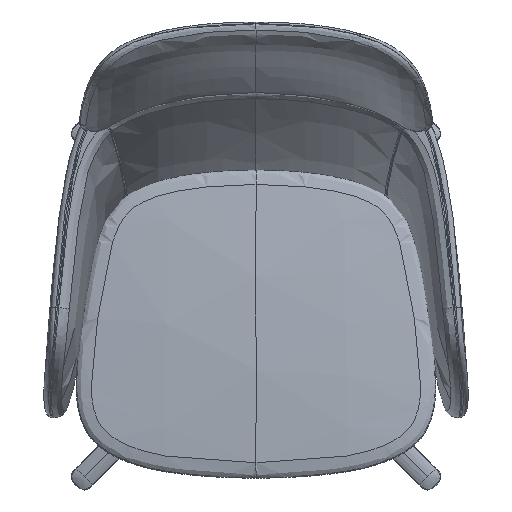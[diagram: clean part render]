
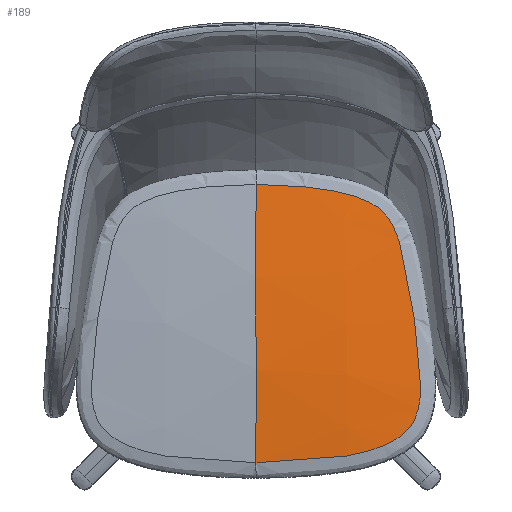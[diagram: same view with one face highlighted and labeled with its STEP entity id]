
A CAD part, top view. The second image highlights one B-rep face of the part: STEP entity #189.
In plain terms, the highlighted free-form (B-spline) face has degree [3, 3] with [9, 5] control points.
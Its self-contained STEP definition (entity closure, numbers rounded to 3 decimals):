
#189=ADVANCED_FACE('',(#459),#3331,.T.);
#459=FACE_OUTER_BOUND('',#729,.T.);
#729=EDGE_LOOP('',(#1390,#1391));
#1390=ORIENTED_EDGE('',*,*,#2254,.T.);
#1391=ORIENTED_EDGE('',*,*,#2253,.T.);
#2253=EDGE_CURVE('',#2935,#2934,#3624,.T.);
#2254=EDGE_CURVE('',#2934,#2935,#3625,.T.);
#2934=VERTEX_POINT('',#18124);
#2935=VERTEX_POINT('',#18125);
#3331=B_SPLINE_SURFACE_WITH_KNOTS('',3,3,((#17196,#17197,#17198,#17199,
#17200),(#17201,#17202,#17203,#17204,#17205),(#17206,#17207,#17208,#17209,
#17210),(#17211,#17212,#17213,#17214,#17215),(#17216,#17217,#17218,#17219,
#17220),(#17221,#17222,#17223,#17224,#17225),(#17226,#17227,#17228,#17229,
#17230),(#17231,#17232,#17233,#17234,#17235),(#17236,#17237,#17238,#17239,
#17240)),.UNSPECIFIED.,.F.,.F.,.F.,(4,1,1,1,1,1,4),(4,1,4),(0.,83.449,
166.899,250.348,333.797,417.247,500.696),
(0.,142.741,285.482),.UNSPECIFIED.);
#3624=B_SPLINE_CURVE_WITH_KNOTS('',3,(#18238,#18239,#18240,#18241,#18242,
#18243,#18244,#18245,#18246),.UNSPECIFIED.,.F.,.F.,(4,1,1,1,1,1,4),(-474.18,
-417.247,-333.797,-250.348,-166.899,-83.449,
-27.123),.UNSPECIFIED.);
#3625=B_SPLINE_CURVE_WITH_KNOTS('',3,(#18247,#18248,#18249,#18250,#18251,
#18252,#18253,#18254,#18255,#18256,#18257,#18258,#18259,#18260,#18261,#18262,
#18263,#18264,#18265,#18266,#18267,#18268,#18269,#18270,#18271,#18272,#18273,
#18274,#18275,#18276,#18277,#18278,#18279,#18280,#18281,#18282,#18283,#18284),
 .UNSPECIFIED.,.F.,.F.,(4,1,1,1,1,1,1,1,1,1,1,1,1,1,1,1,1,1,1,1,1,1,1,1,
1,1,1,1,1,1,1,1,1,1,1,4),(0.,74.102,112.748,154.424,
192.525,214.792,232.095,245.22,256.268,
263.231,270.492,282.04,294.959,312.087,
324.989,345.938,375.178,394.6,433.998,
474.064,495.025,522.099,558.984,574.441,
583.826,599.863,611.407,622.834,635.318,
648.378,662.906,685.56,722.309,760.825,
798.113,834.844),.UNSPECIFIED.);
#17196=CARTESIAN_POINT('',(293.441,-278.96,418.532));
#17197=CARTESIAN_POINT('',(244.578,-279.806,420.82));
#17198=CARTESIAN_POINT('',(146.791,-281.076,424.253));
#17199=CARTESIAN_POINT('',(48.931,-281.499,425.398));
#17200=CARTESIAN_POINT('',(0.,-281.499,425.398));
#17201=CARTESIAN_POINT('',(293.711,-251.33,417.938));
#17202=CARTESIAN_POINT('',(244.804,-252.084,421.13));
#17203=CARTESIAN_POINT('',(146.927,-253.216,425.92));
#17204=CARTESIAN_POINT('',(48.977,-253.593,427.517));
#17205=CARTESIAN_POINT('',(0.,-253.593,427.517));
#17206=CARTESIAN_POINT('',(293.865,-196.081,416.29));
#17207=CARTESIAN_POINT('',(244.933,-196.593,420.786));
#17208=CARTESIAN_POINT('',(147.006,-197.362,427.532));
#17209=CARTESIAN_POINT('',(49.003,-197.618,429.782));
#17210=CARTESIAN_POINT('',(0.,-197.618,429.782));
#17211=CARTESIAN_POINT('',(292.931,-113.227,412.438));
#17212=CARTESIAN_POINT('',(244.156,-113.367,417.778));
#17213=CARTESIAN_POINT('',(146.541,-113.576,425.789));
#17214=CARTESIAN_POINT('',(48.848,-113.646,428.461));
#17215=CARTESIAN_POINT('',(0.,-113.646,428.461));
#17216=CARTESIAN_POINT('',(290.831,-30.47,407.209));
#17217=CARTESIAN_POINT('',(242.408,-30.24,412.688));
#17218=CARTESIAN_POINT('',(145.493,-29.895,420.909));
#17219=CARTESIAN_POINT('',(48.499,-29.779,423.65));
#17220=CARTESIAN_POINT('',(0.,-29.779,423.65));
#17221=CARTESIAN_POINT('',(287.567,52.155,400.605));
#17222=CARTESIAN_POINT('',(239.689,52.736,405.943));
#17223=CARTESIAN_POINT('',(143.864,53.607,413.952));
#17224=CARTESIAN_POINT('',(47.956,53.898,416.622));
#17225=CARTESIAN_POINT('',(0.,53.898,416.622));
#17226=CARTESIAN_POINT('',(283.142,134.589,392.631));
#17227=CARTESIAN_POINT('',(236.003,135.475,397.155));
#17228=CARTESIAN_POINT('',(141.653,136.805,403.943));
#17229=CARTESIAN_POINT('',(47.219,137.248,406.207));
#17230=CARTESIAN_POINT('',(0.,137.248,406.207));
#17231=CARTESIAN_POINT('',(279.422,189.362,386.408));
#17232=CARTESIAN_POINT('',(232.904,190.364,389.672));
#17233=CARTESIAN_POINT('',(139.795,191.867,394.568));
#17234=CARTESIAN_POINT('',(46.6,192.369,396.201));
#17235=CARTESIAN_POINT('',(0.,192.369,396.201));
#17236=CARTESIAN_POINT('',(277.369,216.711,383.07));
#17237=CARTESIAN_POINT('',(231.193,217.713,385.464));
#17238=CARTESIAN_POINT('',(138.769,219.217,389.058));
#17239=CARTESIAN_POINT('',(46.258,219.719,390.256));
#17240=CARTESIAN_POINT('',(0.,219.719,390.256));
#18124=CARTESIAN_POINT('',(0.,-254.266,427.159));
#18125=CARTESIAN_POINT('',(0.,193.587,395.644));
#18238=CARTESIAN_POINT('',(0.,193.587,395.644));
#18239=CARTESIAN_POINT('',(0.,174.843,399.303));
#18240=CARTESIAN_POINT('',(0.,128.42,407.31));
#18241=CARTESIAN_POINT('',(0.,53.898,416.622));
#18242=CARTESIAN_POINT('',(0.,-29.779,423.65));
#18243=CARTESIAN_POINT('',(0.,-113.646,428.461));
#18244=CARTESIAN_POINT('',(0.,-188.52,429.639));
#18245=CARTESIAN_POINT('',(0.,-235.4,428.17));
#18246=CARTESIAN_POINT('',(0.,-254.266,427.159));
#18247=CARTESIAN_POINT('',(0.,-254.266,427.159));
#18248=CARTESIAN_POINT('',(24.702,-254.273,427.157));
#18249=CARTESIAN_POINT('',(62.281,-252.978,426.932));
#18250=CARTESIAN_POINT('',(113.565,-248.479,426.062));
#18251=CARTESIAN_POINT('',(152.657,-242.898,425.052));
#18252=CARTESIAN_POINT('',(185.712,-234.669,423.831));
#18253=CARTESIAN_POINT('',(209.837,-225.227,422.629));
#18254=CARTESIAN_POINT('',(225.332,-216.933,421.674));
#18255=CARTESIAN_POINT('',(236.602,-208.925,420.84));
#18256=CARTESIAN_POINT('',(244.145,-201.78,420.179));
#18257=CARTESIAN_POINT('',(249.409,-195.21,419.641));
#18258=CARTESIAN_POINT('',(253.974,-187.935,419.101));
#18259=CARTESIAN_POINT('',(258.304,-178.271,418.461));
#18260=CARTESIAN_POINT('',(262.075,-164.922,417.674));
#18261=CARTESIAN_POINT('',(264.173,-150.752,416.918));
#18262=CARTESIAN_POINT('',(265.179,-133.804,416.066));
#18263=CARTESIAN_POINT('',(265.,-112.786,415.039));
#18264=CARTESIAN_POINT('',(263.236,-89.666,413.907));
#18265=CARTESIAN_POINT('',(260.014,-60.528,412.402));
#18266=CARTESIAN_POINT('',(255.737,-27.895,410.543));
#18267=CARTESIAN_POINT('',(250.667,5.127,408.418));
#18268=CARTESIAN_POINT('',(245.782,34.013,406.36));
#18269=CARTESIAN_POINT('',(240.733,61.778,404.215));
#18270=CARTESIAN_POINT('',(235.112,87.581,402.034));
#18271=CARTESIAN_POINT('',(228.979,107.16,400.327));
#18272=CARTESIAN_POINT('',(224.098,119.838,399.221));
#18273=CARTESIAN_POINT('',(218.705,130.911,398.268));
#18274=CARTESIAN_POINT('',(211.38,141.653,397.401));
#18275=CARTESIAN_POINT('',(203.468,150.45,396.746));
#18276=CARTESIAN_POINT('',(193.965,158.328,396.231));
#18277=CARTESIAN_POINT('',(182.55,165.315,395.858));
#18278=CARTESIAN_POINT('',(167.24,172.172,395.604));
#18279=CARTESIAN_POINT('',(143.677,179.532,395.482));
#18280=CARTESIAN_POINT('',(111.593,185.742,395.547));
#18281=CARTESIAN_POINT('',(74.341,190.28,395.628));
#18282=CARTESIAN_POINT('',(36.918,193.015,395.639));
#18283=CARTESIAN_POINT('',(12.243,193.586,395.644));
#18284=CARTESIAN_POINT('',(0.,193.587,395.644));
